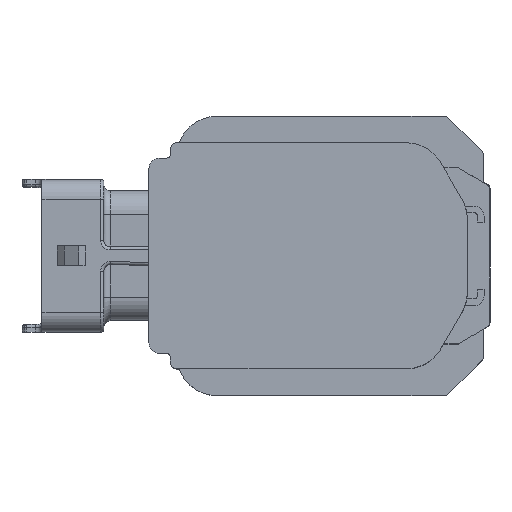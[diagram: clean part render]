
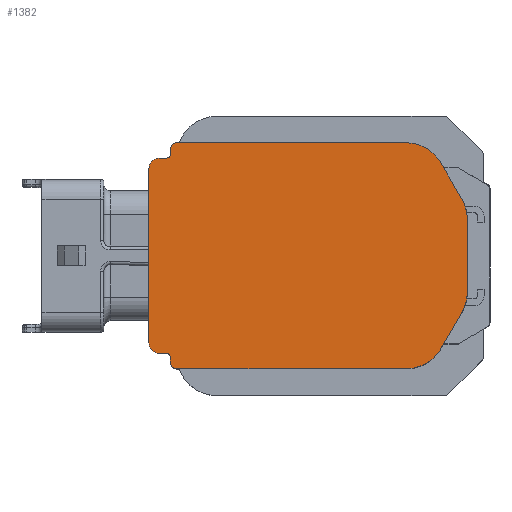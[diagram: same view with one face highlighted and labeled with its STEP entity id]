
A CAD part, top view. The second image highlights one B-rep face of the part: STEP entity #1382.
In plain terms, the highlighted planar face has unit normal (0, 0, 1).
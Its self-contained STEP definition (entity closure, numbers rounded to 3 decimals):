
#569=CIRCLE('',#10309,1.);
#570=CIRCLE('',#10311,1.);
#598=CIRCLE('',#10385,6.);
#599=CIRCLE('',#10386,6.);
#600=CIRCLE('',#10387,6.);
#601=CIRCLE('',#10388,6.);
#909=ELLIPSE('',#10276,1.601,1.6);
#910=ELLIPSE('',#10290,1.601,1.6);
#911=ELLIPSE('',#10293,0.5,0.5);
#912=ELLIPSE('',#10307,0.5,0.5);
#1382=ADVANCED_FACE('',(#2219),#1713,.T.);
#1713=PLANE('',#10389);
#2219=FACE_OUTER_BOUND('',#2760,.T.);
#2760=EDGE_LOOP('',(#5184,#5185,#5186,#5187,#5188,#5189,#5190,#5191,#5192,
#5193,#5194,#5195,#5196,#5197,#5198,#5199,#5200,#5201,#5202,#5203));
#5184=ORIENTED_EDGE('',*,*,#7687,.F.);
#5185=ORIENTED_EDGE('',*,*,#7531,.T.);
#5186=ORIENTED_EDGE('',*,*,#7688,.T.);
#5187=ORIENTED_EDGE('',*,*,#7542,.T.);
#5188=ORIENTED_EDGE('',*,*,#7689,.T.);
#5189=ORIENTED_EDGE('',*,*,#7558,.T.);
#5190=ORIENTED_EDGE('',*,*,#7690,.T.);
#5191=ORIENTED_EDGE('',*,*,#7563,.T.);
#5192=ORIENTED_EDGE('',*,*,#7691,.T.);
#5193=ORIENTED_EDGE('',*,*,#7692,.T.);
#5194=ORIENTED_EDGE('',*,*,#7693,.T.);
#5195=ORIENTED_EDGE('',*,*,#7694,.T.);
#5196=ORIENTED_EDGE('',*,*,#7695,.T.);
#5197=ORIENTED_EDGE('',*,*,#7696,.T.);
#5198=ORIENTED_EDGE('',*,*,#7697,.T.);
#5199=ORIENTED_EDGE('',*,*,#7698,.T.);
#5200=ORIENTED_EDGE('',*,*,#7699,.T.);
#5201=ORIENTED_EDGE('',*,*,#7566,.T.);
#5202=ORIENTED_EDGE('',*,*,#7700,.T.);
#5203=ORIENTED_EDGE('',*,*,#7547,.T.);
#6272=VERTEX_POINT('',#16286);
#6273=VERTEX_POINT('',#16288);
#6280=VERTEX_POINT('',#16310);
#6281=VERTEX_POINT('',#16311);
#6284=VERTEX_POINT('',#16319);
#6285=VERTEX_POINT('',#16321);
#6292=VERTEX_POINT('',#16343);
#6293=VERTEX_POINT('',#16344);
#6294=VERTEX_POINT('',#16349);
#6295=VERTEX_POINT('',#16351);
#6296=VERTEX_POINT('',#16355);
#6297=VERTEX_POINT('',#16357);
#6371=VERTEX_POINT('',#16603);
#6372=VERTEX_POINT('',#16605);
#6373=VERTEX_POINT('',#16607);
#6374=VERTEX_POINT('',#16609);
#6375=VERTEX_POINT('',#16611);
#6376=VERTEX_POINT('',#16613);
#6377=VERTEX_POINT('',#16615);
#6378=VERTEX_POINT('',#16617);
#7531=EDGE_CURVE('',#6273,#6272,#909,.T.);
#7542=EDGE_CURVE('',#6280,#6281,#910,.T.);
#7547=EDGE_CURVE('',#6285,#6284,#911,.T.);
#7558=EDGE_CURVE('',#6292,#6293,#912,.T.);
#7563=EDGE_CURVE('',#6294,#6295,#569,.T.);
#7566=EDGE_CURVE('',#6296,#6297,#570,.T.);
#7687=EDGE_CURVE('',#6273,#6284,#8625,.T.);
#7688=EDGE_CURVE('',#6272,#6280,#8626,.T.);
#7689=EDGE_CURVE('',#6281,#6292,#8627,.T.);
#7690=EDGE_CURVE('',#6293,#6294,#8628,.T.);
#7691=EDGE_CURVE('',#6295,#6371,#8629,.T.);
#7692=EDGE_CURVE('',#6371,#6372,#598,.T.);
#7693=EDGE_CURVE('',#6372,#6373,#8630,.T.);
#7694=EDGE_CURVE('',#6373,#6374,#599,.T.);
#7695=EDGE_CURVE('',#6374,#6375,#8631,.T.);
#7696=EDGE_CURVE('',#6375,#6376,#600,.T.);
#7697=EDGE_CURVE('',#6376,#6377,#8632,.T.);
#7698=EDGE_CURVE('',#6377,#6378,#601,.T.);
#7699=EDGE_CURVE('',#6378,#6296,#8633,.T.);
#7700=EDGE_CURVE('',#6297,#6285,#8634,.T.);
#8625=LINE('',#16598,#9514);
#8626=LINE('',#16599,#9515);
#8627=LINE('',#16600,#9516);
#8628=LINE('',#16601,#9517);
#8629=LINE('',#16602,#9518);
#8630=LINE('',#16606,#9519);
#8631=LINE('',#16610,#9520);
#8632=LINE('',#16614,#9521);
#8633=LINE('',#16618,#9522);
#8634=LINE('',#16619,#9523);
#9514=VECTOR('',#12979,1.);
#9515=VECTOR('',#12980,1.);
#9516=VECTOR('',#12981,1.);
#9517=VECTOR('',#12982,1.);
#9518=VECTOR('',#12983,1.);
#9519=VECTOR('',#12986,1.);
#9520=VECTOR('',#12989,1.);
#9521=VECTOR('',#12992,1.);
#9522=VECTOR('',#12995,1.);
#9523=VECTOR('',#12996,1.);
#10276=AXIS2_PLACEMENT_3D('',#16287,#12657,#12658);
#10290=AXIS2_PLACEMENT_3D('',#16309,#12686,#12687);
#10293=AXIS2_PLACEMENT_3D('',#16320,#12695,#12696);
#10307=AXIS2_PLACEMENT_3D('',#16342,#12724,#12725);
#10309=AXIS2_PLACEMENT_3D('',#16352,#12732,#12733);
#10311=AXIS2_PLACEMENT_3D('',#16358,#12738,#12739);
#10385=AXIS2_PLACEMENT_3D('',#16604,#12984,#12985);
#10386=AXIS2_PLACEMENT_3D('',#16608,#12987,#12988);
#10387=AXIS2_PLACEMENT_3D('',#16612,#12990,#12991);
#10388=AXIS2_PLACEMENT_3D('',#16616,#12993,#12994);
#10389=AXIS2_PLACEMENT_3D('',#16620,#12997,#12998);
#12657=DIRECTION('',(0.,0.,1.));
#12658=DIRECTION('',(0.,-1.,0.));
#12686=DIRECTION('',(0.,0.,1.));
#12687=DIRECTION('',(0.,-1.,0.));
#12695=DIRECTION('',(0.,0.,-1.));
#12696=DIRECTION('',(0.,1.,0.));
#12724=DIRECTION('',(0.,0.,-1.));
#12725=DIRECTION('',(0.,1.,0.));
#12732=DIRECTION('',(0.,0.,1.));
#12733=DIRECTION('',(0.,-1.,0.));
#12738=DIRECTION('',(0.,0.,1.));
#12739=DIRECTION('',(0.,-1.,0.));
#12979=DIRECTION('',(1.,0.,0.));
#12980=DIRECTION('',(0.,-1.,0.));
#12981=DIRECTION('',(1.,0.,0.));
#12982=DIRECTION('',(0.,-1.,0.));
#12983=DIRECTION('',(1.,0.,0.));
#12984=DIRECTION('',(0.,0.,1.));
#12985=DIRECTION('',(1.,0.,0.));
#12986=DIRECTION('',(0.5,0.866,0.));
#12987=DIRECTION('',(0.,0.,1.));
#12988=DIRECTION('',(1.,0.,0.));
#12989=DIRECTION('',(0.,1.,0.));
#12990=DIRECTION('',(0.,0.,1.));
#12991=DIRECTION('',(1.,0.,0.));
#12992=DIRECTION('',(-0.5,0.866,0.));
#12993=DIRECTION('',(0.,0.,1.));
#12994=DIRECTION('',(1.,0.,0.));
#12995=DIRECTION('',(-1.,0.,0.));
#12996=DIRECTION('',(0.,-1.,0.));
#12997=DIRECTION('',(0.,0.,1.));
#12998=DIRECTION('',(0.,-1.,0.));
#16286=CARTESIAN_POINT('',(-27.5,13.102,28.15));
#16287=CARTESIAN_POINT('',(-25.9,13.102,28.15));
#16288=CARTESIAN_POINT('',(-25.9,14.703,28.15));
#16309=CARTESIAN_POINT('',(-25.9,-13.101,28.15));
#16310=CARTESIAN_POINT('',(-27.5,-13.101,28.15));
#16311=CARTESIAN_POINT('',(-25.9,-14.702,28.15));
#16319=CARTESIAN_POINT('',(-24.8,14.703,28.15));
#16320=CARTESIAN_POINT('',(-24.8,15.203,28.15));
#16321=CARTESIAN_POINT('',(-24.3,15.203,28.15));
#16342=CARTESIAN_POINT('',(-24.8,-15.203,28.15));
#16343=CARTESIAN_POINT('',(-24.8,-14.702,28.15));
#16344=CARTESIAN_POINT('',(-24.3,-15.203,28.15));
#16349=CARTESIAN_POINT('',(-24.3,-16.,28.15));
#16351=CARTESIAN_POINT('',(-23.3,-17.,28.15));
#16352=CARTESIAN_POINT('',(-23.3,-16.,28.15));
#16355=CARTESIAN_POINT('',(-23.3,17.,28.15));
#16357=CARTESIAN_POINT('',(-24.3,16.,28.15));
#16358=CARTESIAN_POINT('',(-23.3,16.,28.15));
#16598=CARTESIAN_POINT('',(-27.5,14.703,28.15));
#16599=CARTESIAN_POINT('',(-27.5,14.703,28.15));
#16600=CARTESIAN_POINT('',(-27.5,-14.702,28.15));
#16601=CARTESIAN_POINT('',(-24.3,17.,28.15));
#16602=CARTESIAN_POINT('',(-24.3,-17.,28.15));
#16603=CARTESIAN_POINT('',(11.2,-17.,28.15));
#16604=CARTESIAN_POINT('',(11.2,-11.,28.15));
#16605=CARTESIAN_POINT('',(16.4,-13.993,28.15));
#16606=CARTESIAN_POINT('',(16.4,-13.993,28.15));
#16607=CARTESIAN_POINT('',(19.596,-8.457,28.15));
#16608=CARTESIAN_POINT('',(14.4,-5.457,28.15));
#16609=CARTESIAN_POINT('',(20.4,-5.457,28.15));
#16610=CARTESIAN_POINT('',(20.4,-5.457,28.15));
#16611=CARTESIAN_POINT('',(20.4,5.457,28.15));
#16612=CARTESIAN_POINT('',(14.4,5.457,28.15));
#16613=CARTESIAN_POINT('',(19.596,8.457,28.15));
#16614=CARTESIAN_POINT('',(19.596,8.457,28.15));
#16615=CARTESIAN_POINT('',(16.4,13.993,28.15));
#16616=CARTESIAN_POINT('',(11.2,11.,28.15));
#16617=CARTESIAN_POINT('',(11.2,17.,28.15));
#16618=CARTESIAN_POINT('',(11.2,17.,28.15));
#16619=CARTESIAN_POINT('',(-24.3,17.,28.15));
#16620=CARTESIAN_POINT('',(11.2,11.,28.15));
